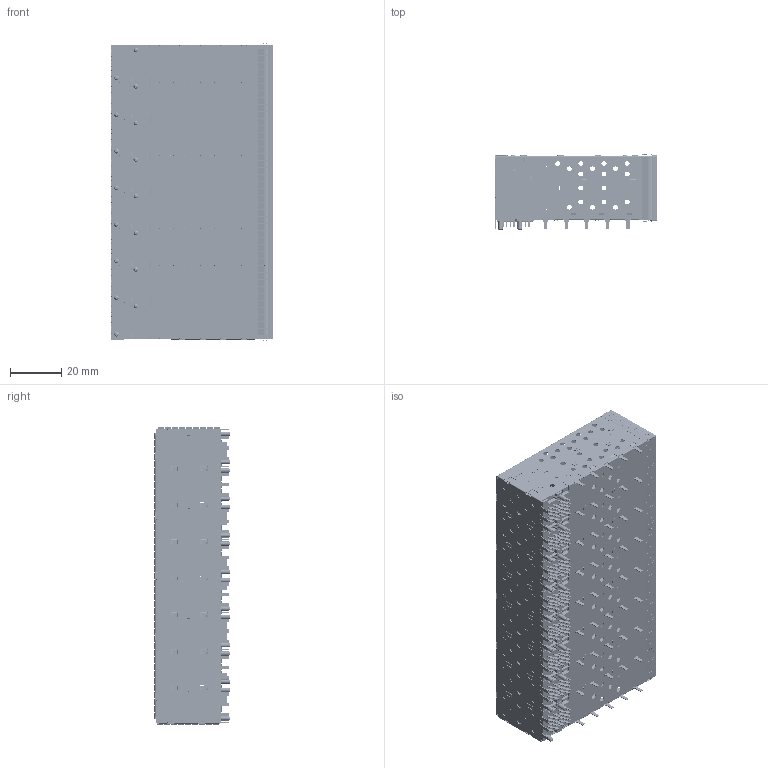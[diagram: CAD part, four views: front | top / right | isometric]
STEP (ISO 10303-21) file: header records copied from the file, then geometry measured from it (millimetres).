
FILE_DESCRIPTION((''),'2;1');
FILE_NAME('SFP_2X8-3D-ESFP10101206-C-REV_G','2018-04-04T',('Administrator'),(''),'PRO/ENGINEER BY PARAMETRIC TECHNOLOGY CORPORATION, 2009440','PRO/ENGINEER BY PARAMETRIC TECHNOLOGY CORPORATION, 2009440','');
FILE_SCHEMA(('CONFIG_CONTROL_DESIGN'));
Products named in the file (1): SFP_2X8-3D-ESFP10101206-C-REV_G
Bounding box: 63.4 x 29.68 x 115.76 mm (x, y, z)
Volume: 58572.6 mm3; surface area: 125121.7 mm2
Topology: 1 solids, 1 shells, 20586 faces, 61332 edges, 40336 vertices
Faces by surface type: plane 12545, cylinder 7837, bspline 156, cone 32, sphere 16
Entity records: 706630 total; most frequent: CARTESIAN_POINT 133881, ORIENTED_EDGE 122632, DIRECTION 117649, EDGE_CURVE 61316, VECTOR 43819, LINE 43819, VERTEX_POINT 40336, AXIS2_PLACEMENT_3D 36915
